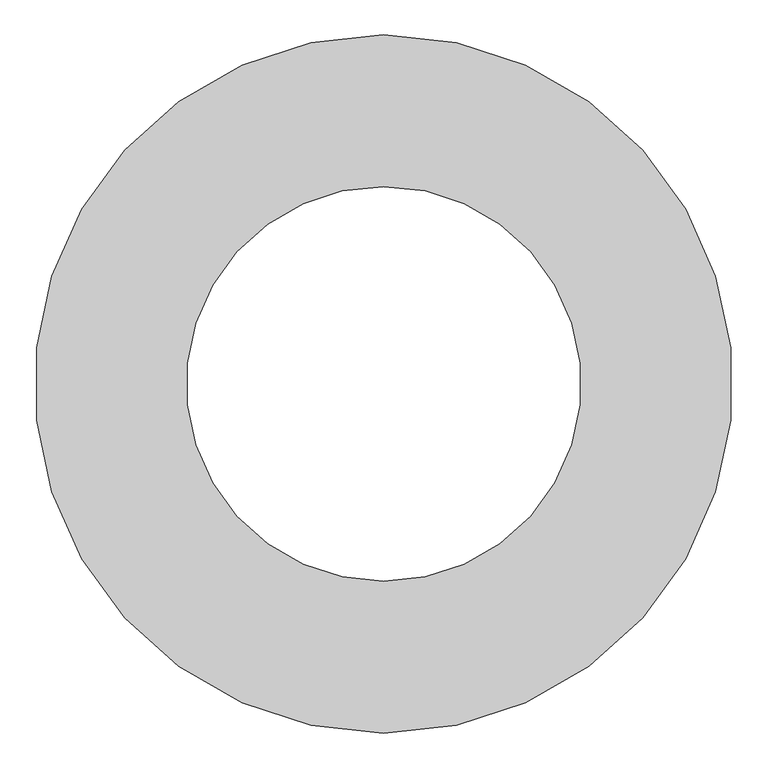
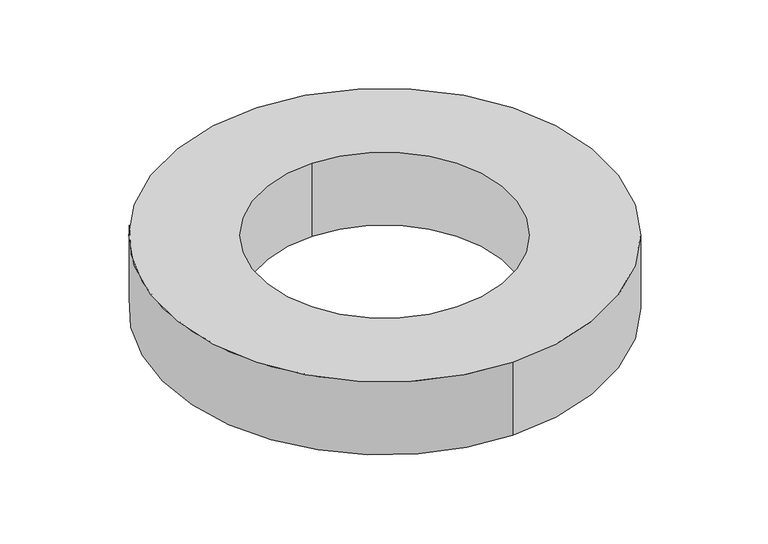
"""IFC4 building model written with IfcOpenShell, lengths in millimetres: valve geometry, Pipelife - Studnia PRO - Pierścień : Studnia Pierścień odciążający do studni 630."""

from ifc_helpers import new_model, si_unit, point, origin, origin_with_axes, origin_2d, place, context, project, spatial, circle_curve, trimmed, segment, composite_curve, outline, extrude, source, transform, mapped, element, save


def valve_d6b15d58(model_context):
    return source(origin(), model_context, "Body", "SweptSolid", [
        extrude(outline(composite_curve([segment(trimmed(circle_curve(origin_2d(), 575.0), [point((0.0, 575.0))], [point((0.0, -575.0))], False, "CARTESIAN"), True, "CONTINUOUS"), segment(trimmed(circle_curve(origin_2d(), 575.0), [point((0.0, -575.0))], [point((0.0, 575.0))], False, "CARTESIAN"), True, "CONTINUOUS")], self_intersect=False), holes=[composite_curve([segment(trimmed(circle_curve(origin_2d(), 325.0), [point((0.0, 325.0))], [point((0.0, -325.0))], True, "CARTESIAN"), True, "CONTINUOUS"), segment(trimmed(circle_curve(origin_2d(), 325.0), [point((0.0, -325.0))], [point((0.0, 325.0))], True, "CARTESIAN"), True, "CONTINUOUS")], self_intersect=False)]), origin_with_axes(), (0.0, 0.0, 1.0), 200.0),
    ])


if __name__ == "__main__":
    model = new_model("IFC4")
    model_context = context("Model", 3, world=origin())
    ifc_project = project(units=[si_unit("LENGTHUNIT", "METRE", prefix="MILLI")], contexts=[model_context])
    site = spatial("IfcSite", under=ifc_project)
    building = spatial("IfcBuilding", under=site)
    placement = place(None, origin())
    valve_shape = valve_d6b15d58(model_context)
    element("IfcValve", 1, ObjectType="Pipelife - Studnia PRO - Pierścień : Studnia Pierścień odciążający do studni 630", at=placement, inside=building, context=model_context, shape_type="MappedRepresentation", body=[
        mapped(valve_shape, transform((0.0, 0.0, 0.0), x_axis=(1.0, 0.0, 0.0), y_axis=(0.0, 1.0, 0.0), z_axis=(0.0, 0.0, 1.0))),
    ])
    save(model, "model.ifc")
